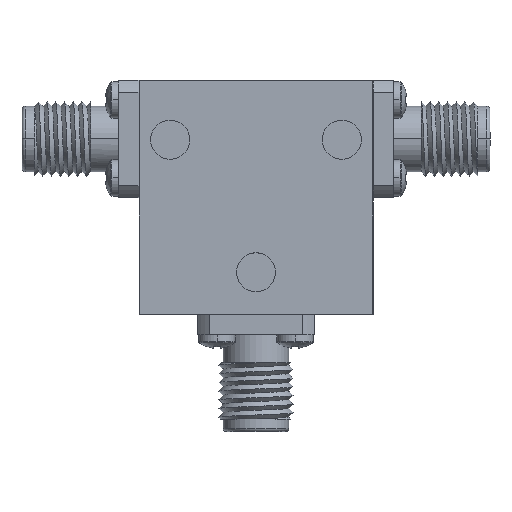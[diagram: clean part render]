
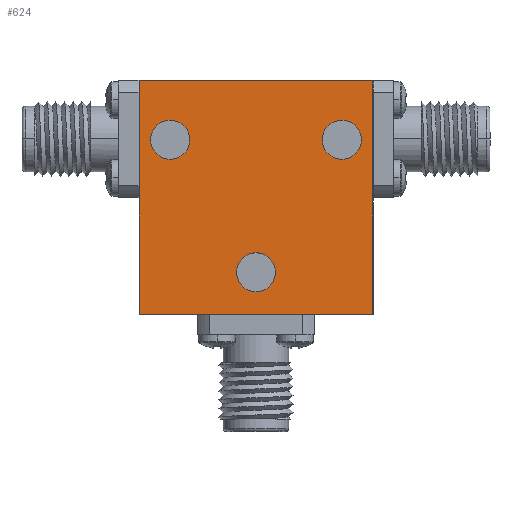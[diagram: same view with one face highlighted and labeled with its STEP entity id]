
A CAD part, top view. The second image highlights one B-rep face of the part: STEP entity #624.
In plain terms, the highlighted planar face has unit normal (0, 0, 1) as drawn and (0, 0, -1) by its records, which use the part's own axes.
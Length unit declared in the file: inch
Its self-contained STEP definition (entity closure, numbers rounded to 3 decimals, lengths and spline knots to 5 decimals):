
#10 = PLANE ( 'NONE',  #805 ) ;
#31 = EDGE_LOOP ( 'NONE', ( #2354, #3708 ) ) ;
#58 = DIRECTION ( 'NONE',  ( -1., 0., 0. ) ) ;
#71 = DIRECTION ( 'NONE',  ( 0., 0., 1. ) ) ;
#132 = LINE ( 'NONE', #2049, #182 ) ;
#182 = VECTOR ( 'NONE', #2657, 39.37008 ) ;
#221 = AXIS2_PLACEMENT_3D ( 'NONE', #2929, #1128, #3523 ) ;
#248 = CARTESIAN_POINT ( 'NONE',  ( 0., -0.24, -0.19 ) ) ;
#276 = VERTEX_POINT ( 'NONE', #1933 ) ;
#288 = EDGE_CURVE ( 'NONE', #1768, #1665, #1175, .T. ) ;
#302 = DIRECTION ( 'NONE',  ( 0., 0., 1. ) ) ;
#354 = VECTOR ( 'NONE', #3688, 39.37008 ) ;
#438 = AXIS2_PLACEMENT_3D ( 'NONE', #248, #1093, #3205 ) ;
#453 = CIRCLE ( 'NONE', #438, 0.0625 ) ;
#465 = LINE ( 'NONE', #2359, #2633 ) ;
#571 = LINE ( 'NONE', #1619, #1349 ) ;
#578 = EDGE_CURVE ( 'NONE', #896, #1426, #1550, .T. ) ;
#624 = ADVANCED_FACE ( 'NONE', ( #3265, #1134, #2496, #1889 ), #10, .F. ) ;
#648 = VERTEX_POINT ( 'NONE', #1526 ) ;
#656 = ORIENTED_EDGE ( 'NONE', *, *, #578, .T. ) ;
#661 = VERTEX_POINT ( 'NONE', #2741 ) ;
#707 = EDGE_CURVE ( 'NONE', #2456, #2090, #465, .T. ) ;
#776 = CIRCLE ( 'NONE', #2418, 0.0625 ) ;
#779 = ORIENTED_EDGE ( 'NONE', *, *, #288, .T. ) ;
#793 = CARTESIAN_POINT ( 'NONE',  ( -0.375, 0.375, -0.19 ) ) ;
#805 = AXIS2_PLACEMENT_3D ( 'NONE', #1196, #302, #1477 ) ;
#896 = VERTEX_POINT ( 'NONE', #2152 ) ;
#916 = AXIS2_PLACEMENT_3D ( 'NONE', #1518, #2660, #3800 ) ;
#917 = EDGE_LOOP ( 'NONE', ( #1984, #656 ) ) ;
#973 = VERTEX_POINT ( 'NONE', #1551 ) ;
#982 = LINE ( 'NONE', #3006, #354 ) ;
#1087 = CARTESIAN_POINT ( 'NONE',  ( -0.2125, 0.185, -0.19 ) ) ;
#1093 = DIRECTION ( 'NONE',  ( 0., 0., 1. ) ) ;
#1120 = ORIENTED_EDGE ( 'NONE', *, *, #3244, .F. ) ;
#1128 = DIRECTION ( 'NONE',  ( 0., 0., 1. ) ) ;
#1134 = FACE_BOUND ( 'NONE', #31, .T. ) ;
#1175 = CIRCLE ( 'NONE', #221, 0.0625 ) ;
#1196 = CARTESIAN_POINT ( 'NONE',  ( 0., 0., -0.19 ) ) ;
#1220 = CARTESIAN_POINT ( 'NONE',  ( -0.3375, 0.185, -0.19 ) ) ;
#1240 = CARTESIAN_POINT ( 'NONE',  ( 0.275, 0.185, -0.19 ) ) ;
#1344 = EDGE_CURVE ( 'NONE', #1426, #896, #776, .T. ) ;
#1345 = ORIENTED_EDGE ( 'NONE', *, *, #1638, .F. ) ;
#1349 = VECTOR ( 'NONE', #58, 39.37008 ) ;
#1371 = AXIS2_PLACEMENT_3D ( 'NONE', #2278, #2876, #3530 ) ;
#1384 = EDGE_LOOP ( 'NONE', ( #1345, #2676, #3181, #1120 ) ) ;
#1426 = VERTEX_POINT ( 'NONE', #3061 ) ;
#1465 = DIRECTION ( 'NONE',  ( 0., -1., 0. ) ) ;
#1477 = DIRECTION ( 'NONE',  ( 1., 0., 0. ) ) ;
#1518 = CARTESIAN_POINT ( 'NONE',  ( 0.275, 0.185, -0.19 ) ) ;
#1526 = CARTESIAN_POINT ( 'NONE',  ( -0.0625, -0.24, -0.19 ) ) ;
#1550 = CIRCLE ( 'NONE', #916, 0.0625 ) ;
#1551 = CARTESIAN_POINT ( 'NONE',  ( 0.375, 0.375, -0.19 ) ) ;
#1560 = EDGE_CURVE ( 'NONE', #1665, #1768, #2994, .T. ) ;
#1568 = DIRECTION ( 'NONE',  ( 1., 0., 0. ) ) ;
#1619 = CARTESIAN_POINT ( 'NONE',  ( -0.375, 0.375, -0.19 ) ) ;
#1638 = EDGE_CURVE ( 'NONE', #276, #973, #132, .T. ) ;
#1665 = VERTEX_POINT ( 'NONE', #1087 ) ;
#1768 = VERTEX_POINT ( 'NONE', #1220 ) ;
#1889 = FACE_OUTER_BOUND ( 'NONE', #1384, .T. ) ;
#1933 = CARTESIAN_POINT ( 'NONE',  ( 0.375, -0.375, -0.19 ) ) ;
#1984 = ORIENTED_EDGE ( 'NONE', *, *, #1344, .T. ) ;
#2049 = CARTESIAN_POINT ( 'NONE',  ( 0.375, 0.375, -0.19 ) ) ;
#2078 = EDGE_CURVE ( 'NONE', #2090, #276, #982, .T. ) ;
#2090 = VERTEX_POINT ( 'NONE', #2565 ) ;
#2128 = DIRECTION ( 'NONE',  ( 1., 0., 0. ) ) ;
#2141 = DIRECTION ( 'NONE',  ( 0., 0., 1. ) ) ;
#2152 = CARTESIAN_POINT ( 'NONE',  ( 0.2125, 0.185, -0.19 ) ) ;
#2278 = CARTESIAN_POINT ( 'NONE',  ( -0.275, 0.185, -0.19 ) ) ;
#2354 = ORIENTED_EDGE ( 'NONE', *, *, #2552, .T. ) ;
#2359 = CARTESIAN_POINT ( 'NONE',  ( -0.375, 0.375, -0.19 ) ) ;
#2381 = AXIS2_PLACEMENT_3D ( 'NONE', #3594, #2141, #2128 ) ;
#2418 = AXIS2_PLACEMENT_3D ( 'NONE', #1240, #71, #1568 ) ;
#2456 = VERTEX_POINT ( 'NONE', #793 ) ;
#2496 = FACE_BOUND ( 'NONE', #3210, .T. ) ;
#2552 = EDGE_CURVE ( 'NONE', #661, #648, #453, .T. ) ;
#2565 = CARTESIAN_POINT ( 'NONE',  ( -0.375, -0.375, -0.19 ) ) ;
#2633 = VECTOR ( 'NONE', #1465, 39.37008 ) ;
#2657 = DIRECTION ( 'NONE',  ( 0., 1., 0. ) ) ;
#2660 = DIRECTION ( 'NONE',  ( 0., 0., 1. ) ) ;
#2676 = ORIENTED_EDGE ( 'NONE', *, *, #2078, .F. ) ;
#2741 = CARTESIAN_POINT ( 'NONE',  ( 0.0625, -0.24, -0.19 ) ) ;
#2876 = DIRECTION ( 'NONE',  ( 0., 0., 1. ) ) ;
#2929 = CARTESIAN_POINT ( 'NONE',  ( -0.275, 0.185, -0.19 ) ) ;
#2994 = CIRCLE ( 'NONE', #1371, 0.0625 ) ;
#3006 = CARTESIAN_POINT ( 'NONE',  ( -0.375, -0.375, -0.19 ) ) ;
#3061 = CARTESIAN_POINT ( 'NONE',  ( 0.3375, 0.185, -0.19 ) ) ;
#3181 = ORIENTED_EDGE ( 'NONE', *, *, #707, .F. ) ;
#3205 = DIRECTION ( 'NONE',  ( 1., 0., 0. ) ) ;
#3210 = EDGE_LOOP ( 'NONE', ( #3536, #779 ) ) ;
#3244 = EDGE_CURVE ( 'NONE', #973, #2456, #571, .T. ) ;
#3265 = FACE_BOUND ( 'NONE', #917, .T. ) ;
#3519 = EDGE_CURVE ( 'NONE', #648, #661, #3720, .T. ) ;
#3523 = DIRECTION ( 'NONE',  ( 1., 0., 0. ) ) ;
#3530 = DIRECTION ( 'NONE',  ( 1., 0., 0. ) ) ;
#3536 = ORIENTED_EDGE ( 'NONE', *, *, #1560, .T. ) ;
#3594 = CARTESIAN_POINT ( 'NONE',  ( 0., -0.24, -0.19 ) ) ;
#3688 = DIRECTION ( 'NONE',  ( 1., 0., 0. ) ) ;
#3708 = ORIENTED_EDGE ( 'NONE', *, *, #3519, .T. ) ;
#3720 = CIRCLE ( 'NONE', #2381, 0.0625 ) ;
#3800 = DIRECTION ( 'NONE',  ( 1., 0., 0. ) ) ;
